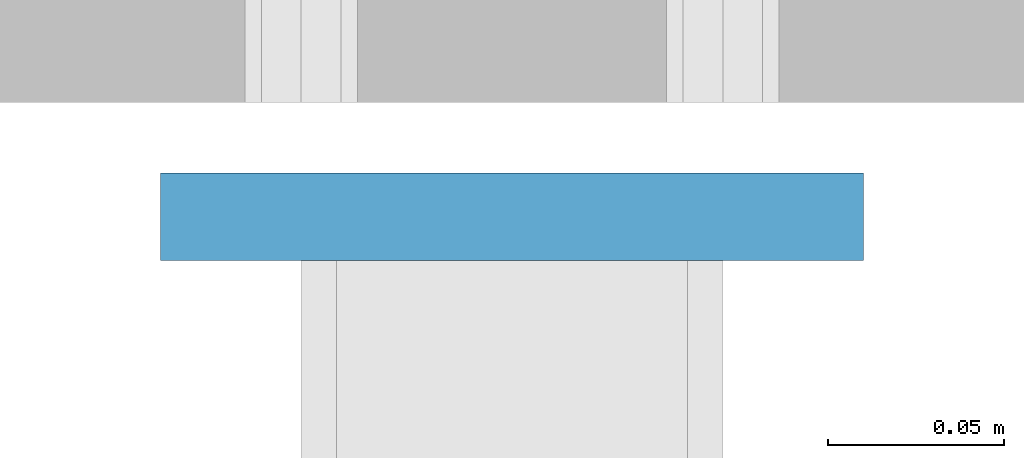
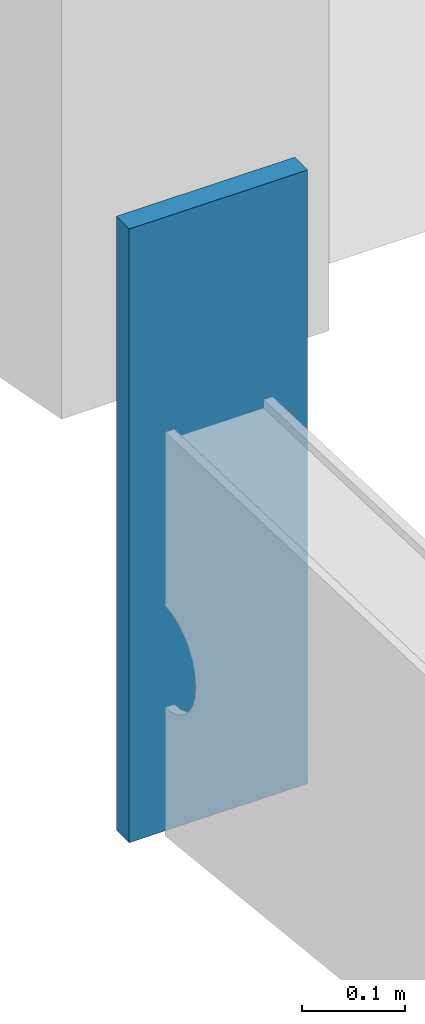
# One storey, part 6 of 27: 1 column.
"""IFC2X3 building model written with IfcOpenShell, lengths in millimetres."""

import ifcopenshell
import ifcopenshell.guid

model = None  # the IFC model being written
_history = None  # IfcOwnerHistory: only IFC2X3 demands one
_inside = {}  # id of a spatial element -> (the spatial element, [elements in it])
_under = {}  # id of a project, library or spatial element -> (it, [spatial elements below it])
_declared = {}  # id of a project -> (the project, [libraries it declares])
_typed = {}  # id of a type object -> (the type object, [elements of that type])
_made_of = {}  # id of a material, layer set ... -> (it, [elements and type objects made of it])


def new_model(schema):
    """Start an empty IFC model of exactly this schema.

    Asked for "IFC4X3", IfcOpenShell would pick the latest addendum, in which some entities
    have other attributes; the version numbers below select the first issue.
    IFC2X3 requires an IfcOwnerHistory on every rooted entity: one is made here for all.
    """
    global model, _history
    if schema == "IFC4X3":
        model = ifcopenshell.file(schema_version=(4, 3, 0, 0))
    else:
        model = ifcopenshell.file(schema=schema)
    _inside.clear()
    _under.clear()
    _declared.clear()
    _typed.clear()
    _made_of.clear()
    _history = None
    if model.schema == "IFC2X3":
        org = make("IfcOrganization", Name="unknown")
        user = make(
            "IfcPersonAndOrganization",
            ThePerson=make("IfcPerson", FamilyName="unknown"),
            TheOrganization=org,
        )
        app = make(
            "IfcApplication",
            ApplicationDeveloper=org,
            Version="unknown",
            ApplicationFullName="unknown",
            ApplicationIdentifier="unknown",
        )
        _history = make(
            "IfcOwnerHistory",
            OwningUser=user,
            OwningApplication=app,
            ChangeAction="ADDED",
            CreationDate=0,
        )
    return model


def make(cls, **values):
    """One entity of the class cls with the attributes given. An attribute that is None is left unset."""
    return model.create_entity(
        cls, **{name: value for name, value in values.items() if value is not None}
    )


def entity(cls, *values):
    """Any entity or typed value of the class cls, its attributes in the order of the schema. None: left unset."""
    e = model.create_entity(cls)
    for i, value in enumerate(values):
        if value is not None:
            e[i] = value
    return e


def rooted(cls, **values):
    """An entity with a GlobalId (a new one), such as an element, a storey or a relation."""
    return make(cls, GlobalId=ifcopenshell.guid.new(), OwnerHistory=_history, **values)


def si_unit(unit_type, name, prefix=None):
    """IfcSIUnit, for example si_unit("LENGTHUNIT", "METRE", prefix="MILLI")."""
    return make("IfcSIUnit", UnitType=unit_type, Prefix=prefix, Name=name)


def converted_unit(unit_type, name, factor, base, dimensions=None, offset=None):
    """IfcConversionBasedUnit, such as the inch: factor (a typed value) times the base unit."""
    return make(
        "IfcConversionBasedUnit"
        if offset is None
        else "IfcConversionBasedUnitWithOffset",
        ConversionOffset=offset,
        Dimensions=None
        if dimensions is None
        else entity("IfcDimensionalExponents", *dimensions),
        UnitType=unit_type,
        Name=name,
        ConversionFactor=make(
            "IfcMeasureWithUnit", ValueComponent=factor, UnitComponent=base
        ),
    )


def derived_unit(unit_type, elements):
    """IfcDerivedUnit: a product of units, each with its exponent."""
    return make(
        "IfcDerivedUnit",
        Elements=[
            make("IfcDerivedUnitElement", Unit=unit, Exponent=power)
            for unit, power in elements
        ],
        UnitType=unit_type,
    )


def assignment(units):
    """IfcUnitAssignment: the units of a project."""
    return None if units is None else make("IfcUnitAssignment", Units=units)


def point(xyz):
    """IfcCartesianPoint."""
    return None if xyz is None else make("IfcCartesianPoint", Coordinates=xyz)


def direction(xyz):
    """IfcDirection."""
    return None if xyz is None else make("IfcDirection", DirectionRatios=xyz)


def frame(location, z_axis=None, x_axis=None):
    """IfcAxis2Placement3D, a coordinate frame: its origin and axes. An axis left out is left unset."""
    return make(
        "IfcAxis2Placement3D",
        Location=point(location),
        Axis=direction(z_axis),
        RefDirection=direction(x_axis),
    )


def frame_2d(location, x_axis=None):
    """IfcAxis2Placement2D, a coordinate frame in the plane: its origin and x axis."""
    return make(
        "IfcAxis2Placement2D", Location=point(location), RefDirection=direction(x_axis)
    )


def origin():
    """The frame at (0, 0, 0) with its axes left unset."""
    return frame((0.0, 0.0, 0.0))


def origin_2d_with_axis():
    """The frame at (0, 0) in the plane with the x axis (1, 0) written out."""
    return frame_2d((0.0, 0.0), x_axis=(1.0, 0.0))


def place(relative_to, where):
    """IfcLocalPlacement: puts the frame where relative to a parent placement (None: the world)."""
    return make(
        "IfcLocalPlacement", PlacementRelTo=relative_to, RelativePlacement=where
    )


def context(
    kind, dimensions, precision=None, world=None, true_north=None, identifier=None
):
    """IfcGeometricRepresentationContext, for example the 3D "Model" context."""
    return make(
        "IfcGeometricRepresentationContext",
        ContextIdentifier=identifier,
        ContextType=kind,
        CoordinateSpaceDimension=dimensions,
        Precision=precision,
        WorldCoordinateSystem=world,
        TrueNorth=true_north,
    )


def subcontext(parent, identifier, kind, view, scale=None):
    """IfcGeometricRepresentationSubContext, for example "Body" below "Model"."""
    return make(
        "IfcGeometricRepresentationSubContext",
        ContextIdentifier=identifier,
        ContextType=kind,
        ParentContext=parent,
        TargetScale=scale,
        TargetView=view,
    )


def project(units=None, contexts=None):
    """IfcProject with its units and contexts."""
    return rooted(
        "IfcProject",
        Name="project",
        RepresentationContexts=contexts,
        UnitsInContext=assignment(units),
    )


def spatial(cls, under=None, at=None, **own):
    """A site, building, storey or space (cls), placed at a placement, below another one or the project."""
    s = rooted(cls, ObjectPlacement=at, **own)
    if under is not None:
        _under.setdefault(under.id(), (under, []))[1].append(s)
    return s


def profile(cls, at=None, kind="AREA", **sizes):
    """A parametric profile (cls). Its sizes go by their IFC names, for example OverallWidth=200.0."""
    return make(cls, ProfileType=kind, Position=at, **sizes)


def rectangle(**sizes):
    """IfcRectangleProfileDef."""
    return profile("IfcRectangleProfileDef", **sizes)


def extrude(swept, where, along, depth):
    """IfcExtrudedAreaSolid: the profile swept, set in the frame where, extruded along a direction by depth."""
    return make(
        "IfcExtrudedAreaSolid",
        SweptArea=swept,
        Position=where,
        ExtrudedDirection=direction(along),
        Depth=depth,
    )


def shape(context_of_items, identifier, shape_type, items):
    """IfcShapeRepresentation: the items that make up one representation, for example the "Body"."""
    return make(
        "IfcShapeRepresentation",
        ContextOfItems=context_of_items,
        RepresentationIdentifier=identifier,
        RepresentationType=shape_type,
        Items=items,
    )


def source(mapping_origin, context_of_items, identifier, shape_type, items):
    """IfcRepresentationMap: a shape defined once, which mapped items show again and again."""
    return make(
        "IfcRepresentationMap",
        MappingOrigin=mapping_origin,
        MappedRepresentation=shape(context_of_items, identifier, shape_type, items),
    )


def transform(
    local_origin,
    x_axis=None,
    y_axis=None,
    z_axis=None,
    scale=None,
    scale2=None,
    scale3=None,
    uniform=True,
):
    """IfcCartesianTransformationOperator3D, or its non-uniform kind. x_axis, y_axis, z_axis: its Axis1, 2, 3."""
    if uniform:
        return make(
            "IfcCartesianTransformationOperator3D",
            Axis1=direction(x_axis),
            Axis2=direction(y_axis),
            LocalOrigin=point(local_origin),
            Scale=scale,
            Axis3=direction(z_axis),
        )
    return make(
        "IfcCartesianTransformationOperator3DnonUniform",
        Axis1=direction(x_axis),
        Axis2=direction(y_axis),
        LocalOrigin=point(local_origin),
        Scale=scale,
        Axis3=direction(z_axis),
        Scale2=scale2,
        Scale3=scale3,
    )


def mapped(mapping_source, mapping_target):
    """IfcMappedItem: shows the shape of a source again, moved by a transform."""
    return make(
        "IfcMappedItem", MappingSource=mapping_source, MappingTarget=mapping_target
    )


def material(Name=None, Category=None):
    """IfcMaterial."""
    return make("IfcMaterial", Name=Name, Category=Category)


def made_of(thing, what):
    """Note that an element or type object is made of a material, layer set ...; save() writes the relation."""
    if what is not None:
        _made_of.setdefault(what.id(), (what, []))[1].append(thing)
    return thing


def type_object(cls, material=None, **own):
    """A type object (cls), such as IfcWallType, which elements share."""
    return made_of(rooted(cls, **own), material)


def type_shapes(of_type, sources):
    """Give a type object the sources (RepresentationMaps) that its elements show as mapped items."""
    of_type.RepresentationMaps = sources


def element(
    cls,
    number,
    at=None,
    inside=None,
    cuts=None,
    type_object=None,
    material=None,
    context=None,
    identifier="Body",
    shape_type=None,
    held_by="IfcProductDefinitionShape",
    body=None,
    shapes=None,
    **own,
):
    """One element of the class cls, such as IfcWall. Its Tag is "e" and its number.

    at: its placement. inside: the storey or other place that contains it. cuts: it is an
    opening in that element (IfcRelVoidsElement). A single representation is given by context,
    identifier, shape_type and body (its items); several are given by shapes. held_by: the class
    of the entity that holds the representations. save() writes the other relations.
    """
    e = rooted(cls, Tag="e%d" % number, ObjectPlacement=at, **own)
    if body is not None:
        shapes = [shape(context, identifier, shape_type, body)]
    if shapes is not None:
        e.Representation = make(held_by, Representations=shapes)
    if inside is not None:
        _inside.setdefault(inside.id(), (inside, []))[1].append(e)
    if cuts is not None:
        rooted(
            "IfcRelVoidsElement", RelatingBuildingElement=cuts, RelatedOpeningElement=e
        )
    if type_object is not None:
        _typed.setdefault(type_object.id(), (type_object, []))[1].append(e)
    return made_of(e, material)


def aggregate(whole, parts):
    """IfcRelAggregates: a whole, such as a stair, and the parts it consists of."""
    return rooted("IfcRelAggregates", RelatingObject=whole, RelatedObjects=parts)


def save(model, path):
    """Write the relations noted so far, then the file.

    IfcRelAggregates (storeys below a building ...), IfcRelContainedInSpatialStructure (elements
    in a storey), IfcRelDefinesByType, IfcRelAssociatesMaterial and IfcRelDeclares: one each for
    every whole, place, type object, material and project.
    """
    for whole, parts in _under.values():
        aggregate(whole, parts)
    for where, things in _inside.values():
        rooted(
            "IfcRelContainedInSpatialStructure",
            RelatedElements=things,
            RelatingStructure=where,
        )
    for kind, things in _typed.values():
        rooted("IfcRelDefinesByType", RelatedObjects=things, RelatingType=kind)
    for what, things in _made_of.values():
        rooted("IfcRelAssociatesMaterial", RelatedObjects=things, RelatingMaterial=what)
    for by, libraries in _declared.values():
        rooted("IfcRelDeclares", RelatingContext=by, RelatedDefinitions=libraries)
    model.write(path)


model = new_model("IFC2X3")

# Units and contexts
model_context = context("Model", 3, precision=0.01, world=origin(), true_north=direction((6.12303176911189e-17, 1.0)))
body_context = subcontext(model_context, "Body", "Model", "MODEL_VIEW")
ifc_project = project(units=[si_unit("LENGTHUNIT", "METRE", prefix="MILLI"), si_unit("AREAUNIT", "SQUARE_METRE"), si_unit("VOLUMEUNIT", "CUBIC_METRE"), converted_unit("PLANEANGLEUNIT", "DEGREE", entity("IfcRatioMeasure", 0.0174532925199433), si_unit("PLANEANGLEUNIT", "RADIAN"), dimensions=[0, 0, 0, 0, 0, 0, 0]), si_unit("MASSUNIT", "GRAM", prefix="KILO"), derived_unit("MASSDENSITYUNIT", [(si_unit("MASSUNIT", "GRAM", prefix="KILO"), 1), (si_unit("LENGTHUNIT", "METRE"), -3)]), si_unit("TIMEUNIT", "SECOND"), si_unit("FREQUENCYUNIT", "HERTZ"), si_unit("THERMODYNAMICTEMPERATUREUNIT", "DEGREE_CELSIUS"), derived_unit("THERMALTRANSMITTANCEUNIT", [(si_unit("MASSUNIT", "GRAM", prefix="KILO"), 1), (si_unit("THERMODYNAMICTEMPERATUREUNIT", "KELVIN"), -1), (si_unit("TIMEUNIT", "SECOND"), -3)]), derived_unit("VOLUMETRICFLOWRATEUNIT", [(si_unit("LENGTHUNIT", "METRE"), 3), (si_unit("TIMEUNIT", "SECOND"), -1)]), si_unit("ELECTRICCURRENTUNIT", "AMPERE"), si_unit("ELECTRICVOLTAGEUNIT", "VOLT"), si_unit("POWERUNIT", "WATT"), si_unit("FORCEUNIT", "NEWTON", prefix="KILO"), si_unit("ILLUMINANCEUNIT", "LUX"), si_unit("LUMINOUSFLUXUNIT", "LUMEN"), si_unit("LUMINOUSINTENSITYUNIT", "CANDELA"), derived_unit("USERDEFINED", [(si_unit("MASSUNIT", "GRAM", prefix="KILO"), -1), (si_unit("LENGTHUNIT", "METRE"), -2), (si_unit("TIMEUNIT", "SECOND"), 3), (si_unit("LUMINOUSFLUXUNIT", "LUMEN"), 1)]), derived_unit("LINEARVELOCITYUNIT", [(si_unit("LENGTHUNIT", "METRE"), 1), (si_unit("TIMEUNIT", "SECOND"), -1)]), si_unit("PRESSUREUNIT", "PASCAL"), derived_unit("USERDEFINED", [(si_unit("LENGTHUNIT", "METRE"), -2), (si_unit("MASSUNIT", "GRAM", prefix="KILO"), 1), (si_unit("TIMEUNIT", "SECOND"), -2)])], contexts=[model_context])

# Site, building, storey
site_placement = place(None, origin())
site = spatial("IfcSite", under=ifc_project, at=site_placement, Name="Default", CompositionType="ELEMENT")
building_placement = place(site_placement, origin())
building = spatial("IfcBuilding", under=site, at=building_placement, Name="niet gebruiken", CompositionType="ELEMENT")
storey_placement = place(building_placement, frame((0.0, 0.0, 6000.0)))
storey = spatial("IfcBuildingStorey", under=building, at=storey_placement, Name="01 eerste verdieping", CompositionType="ELEMENT", Elevation=6000.0)

# Column
ifc_material = material(Name="NLRS_h2_staal")
column_type = type_object("IfcColumnType", Name="kolom stripstaal RECT_200x25", PredefinedType="COLUMN", material=ifc_material)
shared_shape = source(origin(), body_context, "Body", "SweptSolid", [
    extrude(rectangle(XDim=25.0, YDim=200.0, at=origin_2d_with_axis()), frame((0.0, 0.0, 5418.0), z_axis=(0.0, 0.0, 1.0), x_axis=(0.0, -1.0, 0.0)), (0.0, 0.0, 1.0), 726.999999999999),
])
type_shapes(column_type, [shared_shape])
column_placement = place(storey_placement, frame((155750.0, 117.499999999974, -6000.0)))
element("IfcColumn", 1, at=column_placement, inside=storey, type_object=column_type, material=ifc_material, Name="NLRS_28.11_SCO_TLB_stalen kolom stripstaal_gen:kolom stripstaal RECT_200x25", ObjectType="kolom stripstaal RECT_200x25", context=body_context, shape_type="MappedRepresentation", body=[
    mapped(shared_shape, transform((0.0, 0.0, 0.0), scale=1.0)),
])

save(model, "model.ifc")
